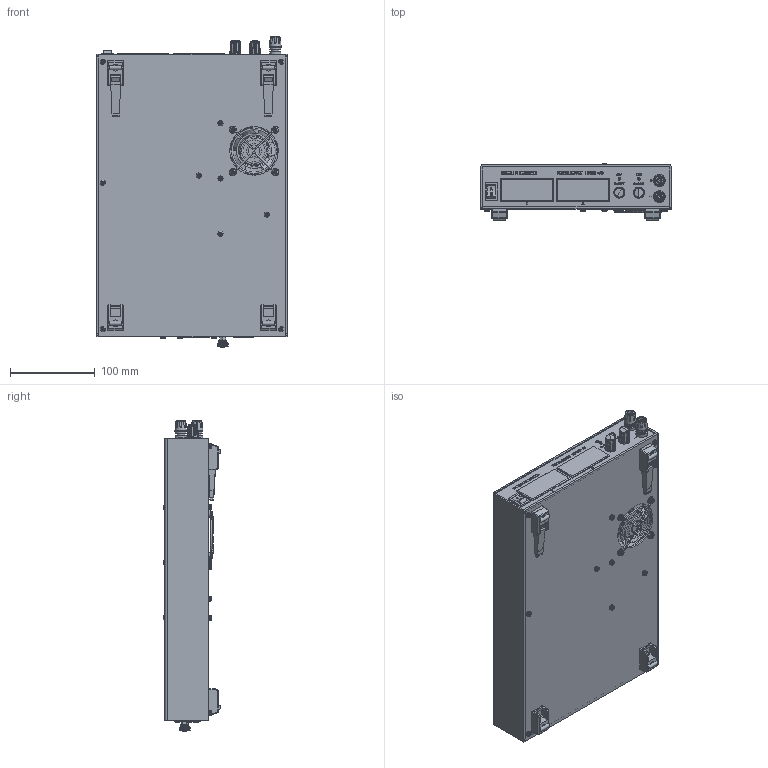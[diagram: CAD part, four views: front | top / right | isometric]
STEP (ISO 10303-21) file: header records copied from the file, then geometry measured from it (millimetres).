
FILE_DESCRIPTION(/* description */ (''),/* implementation_level */ '2;1');
FILE_NAME(/* name */ 'A:\Data\ES300\presentation\ES300.stp',/* time_stamp */ '2021-01-04T13:05:11+01:00',/* author */ ('Delta'),/* organization */ (''),/* preprocessor_version */ 'ST-DEVELOPER v17.2',/* originating_system */ 'Autodesk Inventor 2019',/* authorisation */ '');
FILE_SCHEMA (('AUTOMOTIVE_DESIGN { 1 0 10303 214 3 1 1 }'));
Products named in the file (1): _Assembly ES300_Shrinkwrap_1
Bounding box: 224 x 67.7 x 365.6 mm (x, y, z)
Surface area: 253949.3 mm2 (no closed solid volume)
Topology: 0 solids, 1 shells, 3403 faces, 8707 edges, 5580 vertices
Faces by surface type: plane 1905, cylinder 553, bspline 477, cone 277, torus 125, sphere 66
Full cylindrical faces by diameter (mm): 1.1 x15, 1.5 x8, 2.156 x2, 2.9 x2, 3 x4, 3.1 x6, 3.4 x4, 3.5 x171, 4 x4, 4.1 x4, 4.5 x2, 4.75 x4, 5 x1, 6 x33, 6.7 x2, 6.8 x4, 7.8 x2, 8 x4, 8.8 x3, 9.7 x2, 10.5 x1, 10.7 x2, 12.8 x2, 13.4 x2, 57 x2
Entity records: 117234 total; most frequent: CARTESIAN_POINT 34477, ORIENTED_EDGE 17320, DIRECTION 15273, EDGE_CURVE 8660, VERTEX_POINT 5580, AXIS2_PLACEMENT_3D 5384, LINE 4505, VECTOR 4505
